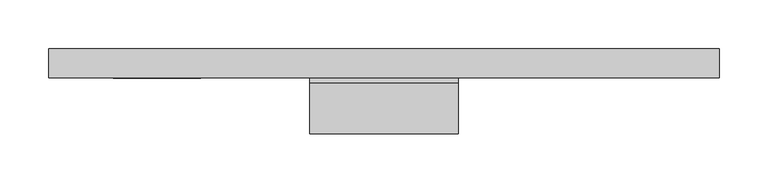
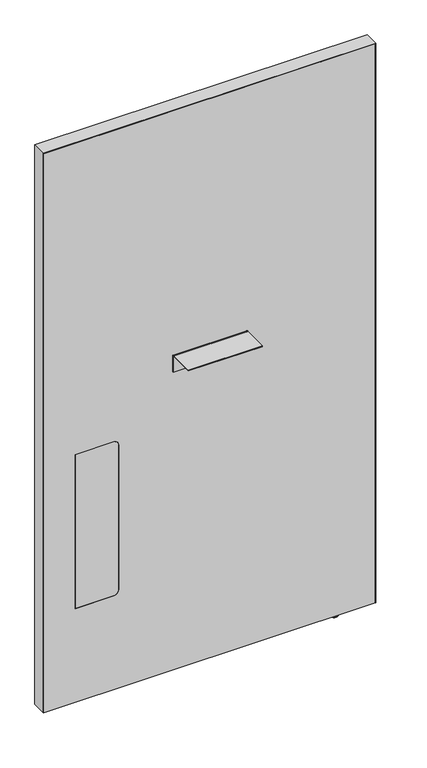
"""IFC4 building model written with IfcOpenShell, lengths in millimetres: furniture geometry, Steelcase - Answer Solution - Boundary Screen - Straight - Single Sided : 48H x 27W."""

from ifc_helpers import new_model, si_unit, point, frame, frame_2d, origin, place, context, project, spatial, polyline, circle_curve, ellipse_curve, trimmed, segment, composite_curve, outline, extrude, source, transform, mapped, element, save
from ifc_brep_helpers import plane_surface, cylinder_surface, revolved_surface, advanced_brep


def furniture_ef84f767(model_context):
    return source(origin(), model_context, "Body", "SolidModel", [
        extrude(outline(composite_curve([segment(polyline([(-86.8398151, 696.4680019), (-86.8398151, 698.5), (-34.9450855, 698.5)]), True, "CONTINUOUS"), segment(trimmed(circle_curve(frame_2d((-34.9450855, 693.2447477)), 5.2552523), [point((-34.9450855, 698.5))], [point((-29.6898332, 693.2447477))], False, "CARTESIAN"), True, "CONTINUOUS"), segment(polyline([(-29.6898332, 693.2447477), (-29.6898332, 660.4), (-31.7218162, 660.4), (-31.7218162, 693.0058743)]), True, "CONTINUOUS"), segment(trimmed(circle_curve(frame_2d((-35.1839438, 693.0058743)), 3.4621276), [point((-31.7218162, 693.0058743))], [point((-35.1839438, 696.4680019))], True, "CARTESIAN"), True, "CONTINUOUS"), segment(polyline([(-35.1839438, 696.4680019), (-86.8398151, 696.4680019)]), True, "CONTINUOUS")], self_intersect=False)), frame((-379.7808593, 0.0, 0.0), z_axis=(1.0, 0.0, 0.0), x_axis=(0.0, 1.0, 0.0)), (0.0, 0.0, 1.0), 152.4000969),
        advanced_brep(
        [(-37.8713512, -23.7588726, 9.9059849), (-37.8713512, -5.9309607, 9.9059849), (-37.8713512, -14.8449166, 9.9059849), (-37.8713512, -23.7588726, 2.9673238), (-37.8713512, -5.9309607, 2.9673238), (-37.8713512, -22.7915354, 2.9673238), (-37.8713512, -6.8982978, 2.9673238), (-37.8713512, -22.7915354, 1.6569081), (-37.8713512, -6.8982978, 1.6569081), (-37.8713512, -21.1346274, 0.0), (-37.8713512, -8.5552059, 0.0), (-37.8713512, -14.8449166, 0.0)],
        [
            (0, 1, circle_curve(frame((-37.8713512, -14.8449166, 9.9059849), z_axis=(0.0, 0.0, 1.0), x_axis=(0.0, 1.0, 0.0)), 8.913956)),
            (1, 2),
            (2, 0),
            (1, 0, circle_curve(frame((-37.8713512, -14.8449166, 9.9059849), z_axis=(0.0, 0.0, 1.0), x_axis=(0.0, 1.0, 0.0)), 8.913956)),
            (3, 4, circle_curve(frame((-37.8713512, -14.8449166, 2.9673238), z_axis=(0.0, 0.0, 1.0), x_axis=(0.0, 1.0, 0.0)), 8.913956)),
            (4, 1),
            (0, 3),
            (4, 3, circle_curve(frame((-37.8713512, -14.8449166, 2.9673238), z_axis=(0.0, 0.0, 1.0), x_axis=(0.0, 1.0, 0.0)), 8.913956)),
            (5, 6, circle_curve(frame((-37.8713512, -14.8449166, 2.9673238), z_axis=(0.0, 0.0, 1.0), x_axis=(0.0, 1.0, 0.0)), 7.9466188)),
            (6, 4),
            (3, 5),
            (6, 5, circle_curve(frame((-37.8713512, -14.8449166, 2.9673238), z_axis=(0.0, 0.0, 1.0), x_axis=(0.0, 1.0, 0.0)), 7.9466188)),
            (7, 8, circle_curve(frame((-37.8713512, -14.8449166, 1.6569081), z_axis=(0.0, 0.0, 1.0), x_axis=(0.0, 1.0, 0.0)), 7.9466188)),
            (8, 6),
            (5, 7),
            (8, 7, circle_curve(frame((-37.8713512, -14.8449166, 1.6569081), z_axis=(0.0, 0.0, 1.0), x_axis=(0.0, 1.0, 0.0)), 7.9466188)),
            (9, 10, circle_curve(frame((-37.8713512, -14.8449166, 0.0), z_axis=(0.0, 0.0, 1.0), x_axis=(0.0, 1.0, 0.0)), 6.2897107)),
            (10, 8, circle_curve(frame((-37.8713512, -8.5552059, 1.6569081), z_axis=(1.0, 0.0, 0.0), x_axis=(0.0, 1.0, 0.0)), 1.6569081)),
            (7, 9, circle_curve(frame((-37.8713512, -21.1346274, 1.6569081), z_axis=(1.0, 0.0, 0.0), x_axis=(0.0, -1.0, 0.0)), 1.6569081)),
            (10, 9, circle_curve(frame((-37.8713512, -14.8449166, 0.0), z_axis=(0.0, 0.0, 1.0), x_axis=(0.0, 1.0, 0.0)), 6.2897107)),
            (11, 10),
            (9, 11),
        ],
        [
            plane_surface(frame((-37.8713512, -14.8449166, 9.9059849), z_axis=(0.0, 0.0, 1.0), x_axis=(0.0, 1.0, 0.0))),
            cylinder_surface(frame((-37.8713512, -14.8449166, 9.9059849), z_axis=(0.0, 0.0, -1.0), x_axis=(0.0, 1.0, 0.0)), 8.913956),
            plane_surface(frame((-37.8713512, -14.8449166, 2.9673238), z_axis=(0.0, 0.0, -1.0), x_axis=(0.0, 1.0, 0.0))),
            cylinder_surface(frame((-37.8713512, -14.8449166, 9.9059849), z_axis=(0.0, 0.0, -1.0), x_axis=(0.0, 1.0, 0.0)), 7.9466188),
            revolved_surface(trimmed(ellipse_curve(frame((-37.8713512, -8.5552059, 1.6569081), z_axis=(-1.0, 0.0, 0.0), x_axis=(0.0, 1.0, 0.0)), 1.6569081, 1.6569081), [point((-37.8713512, -6.8982978, 1.6569081))], [point((-37.8713512, -8.5552059, 0.0))], True, "CARTESIAN"), (-37.8713512, -14.8449166, 9.9059849), (0.0, 0.0, -1.0)),
            plane_surface(frame((-37.8713512, -14.8449166, 0.0), z_axis=(0.0, 0.0, -1.0), x_axis=(0.0, 1.0, 0.0))),
        ],
        [
            (0, [[1, 2, 3]]),
            (0, [[4, -3, -2]]),
            (1, [[5, 6, -1, 7]]),
            (1, [[8, -7, -4, -6]]),
            (2, [[9, 10, -5, 11]]),
            (2, [[12, -11, -8, -10]]),
            (3, [[13, 14, -9, 15]]),
            (3, [[16, -15, -12, -14]]),
            (4, [[17, 18, -13, 19]]),
            (4, [[20, -19, -16, -18]]),
            (5, [[21, -17, 22]]),
            (5, [[-22, -20, -21]]),
        ],
    ),
        advanced_brep(
        [(38.2780168, 0.0, 1229.142118), (38.2780168, 0.0, 9.9059849), (-645.4902221, 0.0, 9.9059849), (-645.4902221, 0.0, 1229.142118), (38.2780168, -29.6898332, 1229.142118), (-645.4902221, -29.6898332, 1229.142118), (-645.4902221, -29.6898332, 9.9059849), (38.2780168, -29.6898332, 9.9059849), (-501.1463873, -29.6898332, 549.6162029), (-490.9863873, -29.6898332, 539.4562029), (-490.9863873, -29.6898332, 223.9362137), (-501.1463873, -29.6898332, 213.7762137), (-580.800285, -29.6898332, 213.7762137), (-580.800285, -29.6898332, 549.6162029), (-580.800285, -29.0550397, 549.6162029), (-501.1463873, -29.0550397, 549.6162029), (-580.800285, -29.0550397, 213.7762137), (-501.1463873, -29.0550397, 213.7762137), (-490.9863873, -29.0550397, 223.9362137), (-490.9863873, -29.0550397, 539.4562029)],
        [
            (0, 1),
            (1, 2),
            (2, 3),
            (3, 0),
            (4, 5),
            (5, 6),
            (6, 7),
            (7, 4),
            (8, 9, circle_curve(frame((-501.1463873, -29.6898332, 539.4562029), z_axis=(0.0, 1.0, 0.0), x_axis=(0.0, 0.0, 1.0)), 10.16)),
            (9, 10),
            (10, 11, circle_curve(frame((-501.1463873, -29.6898332, 223.9362137), z_axis=(0.0, 1.0, 0.0), x_axis=(0.0, 0.0, 1.0)), 10.16)),
            (11, 12),
            (12, 13),
            (13, 8),
            (0, 4),
            (7, 1),
            (6, 2),
            (5, 3),
            (13, 14),
            (14, 15),
            (15, 8),
            (12, 16),
            (16, 14),
            (11, 17),
            (17, 16),
            (10, 18),
            (18, 17, circle_curve(frame((-501.1463873, -29.0550397, 223.9362137), z_axis=(0.0, 1.0, 0.0), x_axis=(0.0, 0.0, 1.0)), 10.16)),
            (9, 19),
            (19, 18),
            (15, 19, circle_curve(frame((-501.1463873, -29.0550397, 539.4562029), z_axis=(0.0, 1.0, 0.0), x_axis=(0.0, 0.0, 1.0)), 10.16)),
        ],
        [
            plane_surface(frame((38.2780168, 0.0, 1229.142118), z_axis=(0.0, 1.0, 0.0), x_axis=(0.0, 0.0, -1.0))),
            plane_surface(frame((38.2780168, -29.6898332, 1229.142118), z_axis=(0.0, -1.0, 0.0), x_axis=(0.0, 0.0, 1.0))),
            plane_surface(frame((38.2780168, 0.0, 1229.142118), z_axis=(1.0, 0.0, 0.0), x_axis=(0.0, -1.0, 0.0))),
            plane_surface(frame((38.2780168, 0.0, 9.9059849), z_axis=(0.0, 0.0, -1.0), x_axis=(0.0, -1.0, 0.0))),
            plane_surface(frame((-645.4902221, 0.0, 9.9059849), z_axis=(-1.0, 0.0, 0.0), x_axis=(0.0, -1.0, 0.0))),
            plane_surface(frame((-645.4902221, 0.0, 1229.142118), z_axis=(0.0, 0.0, 1.0), x_axis=(0.0, -1.0, 0.0))),
            plane_surface(frame((-501.1463873, 0.0, 549.6162029), z_axis=(0.0, 0.0, -1.0), x_axis=(0.0, -1.0, 0.0))),
            plane_surface(frame((-580.800285, 0.0, 549.6162029), z_axis=(1.0, 0.0, 0.0), x_axis=(0.0, -1.0, 0.0))),
            plane_surface(frame((-580.800285, 0.0, 213.7762137), z_axis=(0.0, 0.0, 1.0), x_axis=(0.0, -1.0, 0.0))),
            revolved_surface(polyline([(-501.1463873, -29.6898332, 234.0962137), (-501.1463873, -29.0550397, 234.0962137)]), (-501.1463873, -29.6898332, 223.9362137), (0.0, -1.0, 0.0)),
            plane_surface(frame((-490.9863873, 0.0, 223.9362137), z_axis=(-1.0, 0.0, 0.0), x_axis=(0.0, -1.0, 0.0))),
            revolved_surface(polyline([(-501.1463873, -29.6898332, 549.6162029), (-501.1463873, -29.0550397, 549.6162029)]), (-501.1463873, -29.6898332, 539.4562029), (0.0, -1.0, 0.0)),
            plane_surface(frame((-490.9863873, -29.0550397, 629.172953), z_axis=(0.0, -1.0, 0.0), x_axis=(0.0, 0.0, 1.0))),
        ],
        [
            (0, [[1, 2, 3, 4]]),
            (1, [[5, 6, 7, 8], [9, 10, 11, 12, 13, 14]]),
            (2, [[-1, 15, -8, 16]]),
            (3, [[-2, -16, -7, 17]]),
            (4, [[-3, -17, -6, 18]]),
            (5, [[-4, -18, -5, -15]]),
            (6, [[-14, 19, 20, 21]]),
            (7, [[-13, 22, 23, -19]]),
            (8, [[-12, 24, 25, -22]]),
            (9, [[-11, 26, 27, -24]]),
            (10, [[-10, 28, 29, -26]]),
            (11, [[-9, -21, 30, -28]]),
            (12, [[-20, -23, -25, -27, -29, -30]]),
        ],
    ),
        extrude(outline(composite_curve([segment(polyline([(549.6162029, -501.1463873), (549.6162029, -580.800285), (213.7762137, -580.800285), (213.7762137, -501.1463873)]), True, "CONTINUOUS"), segment(trimmed(circle_curve(frame_2d((223.9362137, -501.1463873)), 10.16), [point((213.7762137, -501.1463873))], [point((223.9362137, -490.9863873))], False, "CARTESIAN"), True, "CONTINUOUS"), segment(polyline([(223.9362137, -490.9863873), (539.4562029, -490.9863873)]), True, "CONTINUOUS"), segment(trimmed(circle_curve(frame_2d((539.4562029, -501.1463873)), 10.16), [point((539.4562029, -490.9863873))], [point((549.6162029, -501.1463873))], False, "CARTESIAN"), True, "CONTINUOUS")], self_intersect=False)), frame((0.0, -29.6898332, 0.0), z_axis=(0.0, 1.0, 0.0), x_axis=(0.0, 0.0, 1.0)), (0.0, 0.0, 1.0), 0.6347935),
        extrude(outline(polyline([(1230.122, 39.3191891), (1230.122, -646.4808109), (9.9059849, -646.4808109), (9.9059849, -645.4902221), (1229.142118, -645.4902221), (1229.142118, 38.2780168), (9.9059849, 38.2780168), (9.9059849, 39.3191891), (1230.122, 39.3191891)])), frame((0.0, -29.6898332, 0.0), z_axis=(0.0, 1.0, 0.0), x_axis=(0.0, 0.0, 1.0)), (0.0, 0.0, 1.0), 29.6898332),
    ])


if __name__ == "__main__":
    model = new_model("IFC4")
    model_context = context("Model", 3, world=origin())
    ifc_project = project(units=[si_unit("LENGTHUNIT", "METRE", prefix="MILLI")], contexts=[model_context])
    site = spatial("IfcSite", under=ifc_project)
    building = spatial("IfcBuilding", under=site)
    placement = place(None, origin())
    furniture_shape = furniture_ef84f767(model_context)
    element("IfcFurniture", 1, ObjectType="Steelcase - Answer Solution - Boundary Screen - Straight - Single Sided : 48H x 27W", at=placement, inside=building, context=model_context, shape_type="MappedRepresentation", body=[
        mapped(furniture_shape, transform((0.0, 0.0, 0.0), x_axis=(1.0, 0.0, 0.0), y_axis=(0.0, 1.0, 0.0), z_axis=(0.0, 0.0, 1.0))),
    ])
    save(model, "model.ifc")
